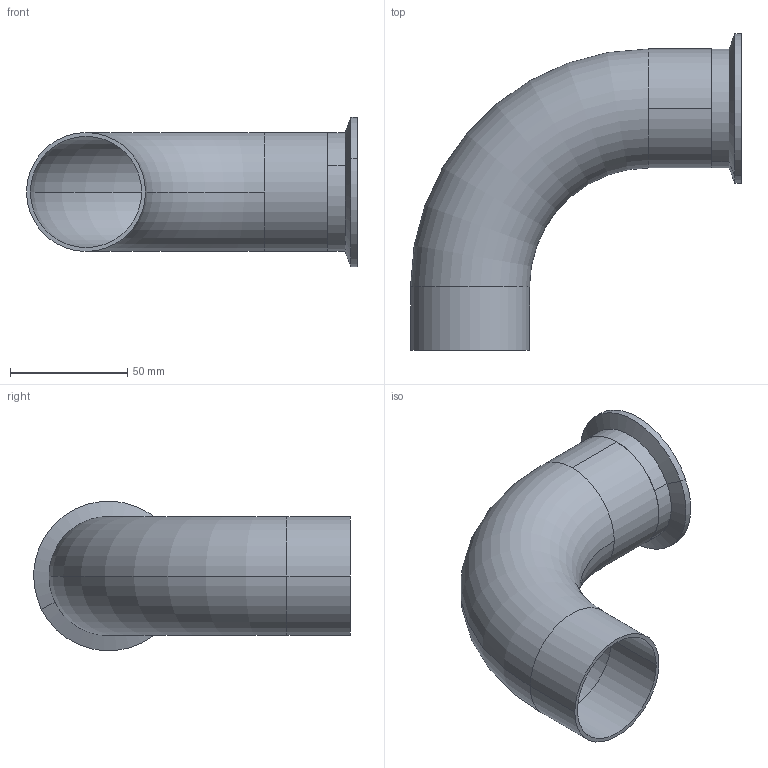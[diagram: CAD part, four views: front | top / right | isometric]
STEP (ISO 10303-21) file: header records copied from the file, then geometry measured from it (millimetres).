
FILE_DESCRIPTION (( 'STEP AP203' ), '1' );
FILE_NAME ('E2C2.0.STEP', '2018-04-30T15:37:58', ( 'vneprd' ), ( 'Microsoft' ), 'SwSTEP 2.0', 'SolidWorks 2014', '' );
FILE_SCHEMA (( 'CONFIG_CONTROL_DESIGN' ));
Length unit declared in the file: inch
Products named in the file (1): E2C2.0
Bounding box: 141.27 x 135.06 x 63.77 mm (x, y, z)
Volume: 51599.3 mm3; surface area: 61005.5 mm2
Topology: 2 solids, 2 shells, 35 faces, 74 edges, 44 vertices
Faces by surface type: cylinder 14, torus 10, cone 6, plane 5
Entity records: 1039 total; most frequent: DIRECTION 200, CARTESIAN_POINT 154, ORIENTED_EDGE 148, AXIS2_PLACEMENT_3D 90, EDGE_CURVE 74, CIRCLE 54, VERTEX_POINT 44, EDGE_LOOP 40
